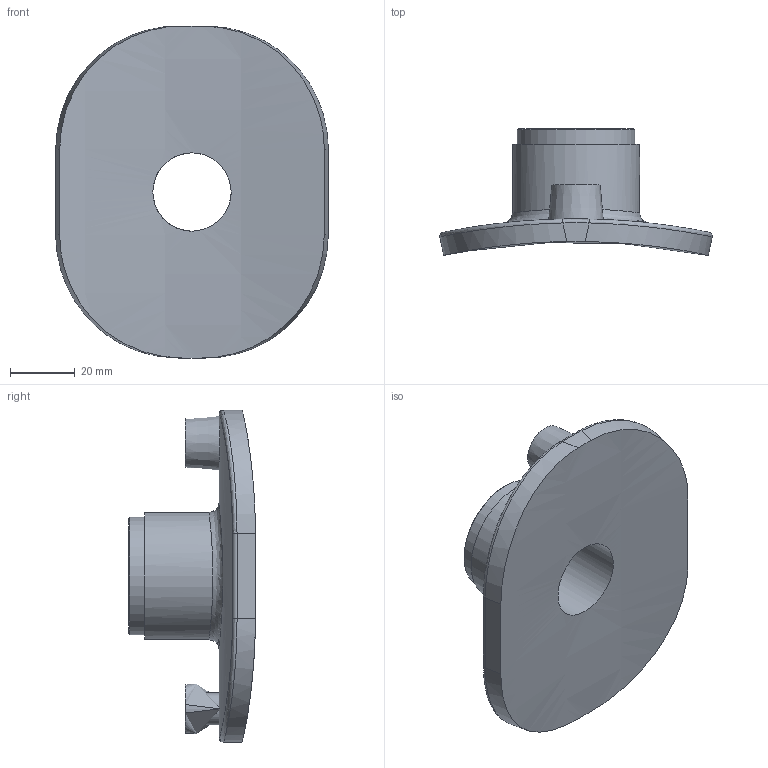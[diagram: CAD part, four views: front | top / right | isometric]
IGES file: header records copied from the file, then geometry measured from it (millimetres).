
Global section: file name: 5938S3400010.ipt; native system: Autodesk Inventor 2019; preprocessor: unknown; author: 12HКирилл; date: 20210830.101204; units: inch
Bounding box: 84.39 x 39.25 x 102.87 mm (x, y, z)
Volume: 67015.2 mm3; surface area: 24210.3 mm2
Topology: 1 solids, 2 shells, 41 faces, 83 edges, 54 vertices
Faces by surface type: plane 12, cylinder 12, revolution 9, bspline 5, cone 3
Full cylindrical faces by diameter (mm): 4 x2, 36.349 x1, 39.378 x1
